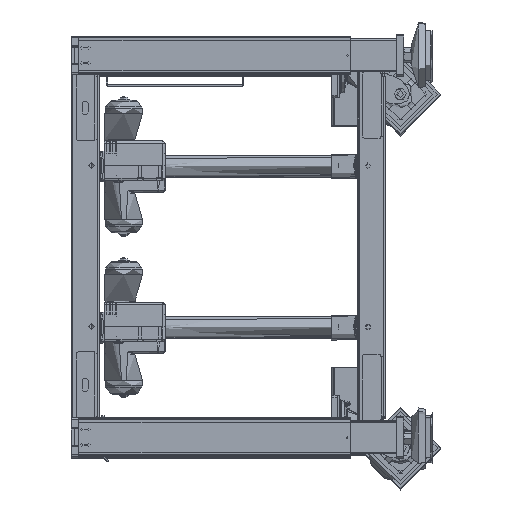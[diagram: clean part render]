
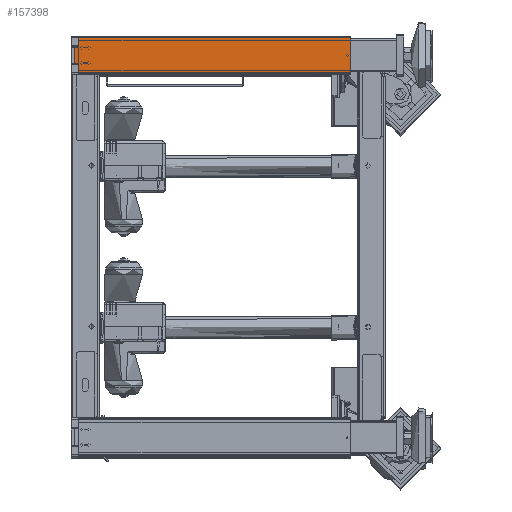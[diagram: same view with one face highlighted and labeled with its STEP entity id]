
A CAD part, top view. The second image highlights one B-rep face of the part: STEP entity #157398.
In plain terms, the highlighted planar face has unit normal (0, 0, 1).
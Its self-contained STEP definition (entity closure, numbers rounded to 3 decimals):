
#8249 = VERTEX_POINT ( 'NONE', #389826 ) ;
#8322 = DIRECTION ( 'NONE',  ( 0., 0., 1. ) ) ;
#15244 = DIRECTION ( 'NONE',  ( -1., 0., 0. ) ) ;
#15919 = CARTESIAN_POINT ( 'NONE',  ( -151.627, 995.2, 2249.714 ) ) ;
#34369 = DIRECTION ( 'NONE',  ( 1., 0., 0. ) ) ;
#42752 = CARTESIAN_POINT ( 'NONE',  ( -157.477, 994.7, 2249.714 ) ) ;
#43710 = VECTOR ( 'NONE', #259796, 1000. ) ;
#45788 = EDGE_CURVE ( 'NONE', #579726, #132322, #171222, .T. ) ;
#46945 = ORIENTED_EDGE ( 'NONE', *, *, #188131, .T. ) ;
#50405 = ORIENTED_EDGE ( 'NONE', *, *, #391263, .T. ) ;
#55754 = FACE_OUTER_BOUND ( 'NONE', #439055, .T. ) ;
#60064 = ORIENTED_EDGE ( 'NONE', *, *, #406946, .F. ) ;
#65102 = CARTESIAN_POINT ( 'NONE',  ( -156.977, 965.7, 2249.714 ) ) ;
#67365 = CARTESIAN_POINT ( 'NONE',  ( 343.173, 1012.025, 2249.714 ) ) ;
#71054 = VECTOR ( 'NONE', #572476, 1000. ) ;
#71801 = EDGE_CURVE ( 'NONE', #89012, #546302, #210308, .T. ) ;
#73012 = CARTESIAN_POINT ( 'NONE',  ( -156.977, 994.7, 2249.714 ) ) ;
#74413 = DIRECTION ( 'NONE',  ( 0., -1., 0. ) ) ;
#77724 = CARTESIAN_POINT ( 'NONE',  ( 334.523, 980.2, 2249.714 ) ) ;
#79567 = VECTOR ( 'NONE', #34369, 1000. ) ;
#79615 = LINE ( 'NONE', #417499, #106950 ) ;
#81365 = LINE ( 'NONE', #422355, #94551 ) ;
#83786 = DIRECTION ( 'NONE',  ( 0., 0., -1. ) ) ;
#87675 = AXIS2_PLACEMENT_3D ( 'NONE', #238871, #522956, #526079 ) ;
#89012 = VERTEX_POINT ( 'NONE', #351347 ) ;
#92160 = LINE ( 'NONE', #234354, #250096 ) ;
#94551 = VECTOR ( 'NONE', #315218, 1000. ) ;
#98711 = ORIENTED_EDGE ( 'NONE', *, *, #388039, .T. ) ;
#106950 = VECTOR ( 'NONE', #467886, 1000. ) ;
#132322 = VERTEX_POINT ( 'NONE', #403805 ) ;
#135060 = EDGE_CURVE ( 'NONE', #362477, #205175, #567242, .T. ) ;
#157398 = ADVANCED_FACE ( 'NONE', ( #245346, #55754 ), #248455, .F. ) ;
#159356 = CIRCLE ( 'NONE', #190159, 0.5 ) ;
#161417 = DIRECTION ( 'NONE',  ( 0., -1., 0. ) ) ;
#162837 = CARTESIAN_POINT ( 'NONE',  ( -157.477, 948.375, 2249.714 ) ) ;
#166730 = CARTESIAN_POINT ( 'NONE',  ( 336.173, 980.2, 2249.714 ) ) ;
#171222 = LINE ( 'NONE', #502875, #43710 ) ;
#175660 = EDGE_CURVE ( 'NONE', #579726, #244503, #422809, .T. ) ;
#184693 = CARTESIAN_POINT ( 'NONE',  ( -151.627, 995.7, 2249.714 ) ) ;
#186777 = EDGE_CURVE ( 'NONE', #362477, #309752, #79615, .T. ) ;
#188131 = EDGE_CURVE ( 'NONE', #309752, #244503, #329685, .T. ) ;
#190159 = AXIS2_PLACEMENT_3D ( 'NONE', #73012, #309964, #161417 ) ;
#193173 = DIRECTION ( 'NONE',  ( -1., 0., 0. ) ) ;
#194144 = CIRCLE ( 'NONE', #355627, 0.5 ) ;
#201037 = DIRECTION ( 'NONE',  ( 0., -1., 0. ) ) ;
#204053 = CARTESIAN_POINT ( 'NONE',  ( -156.977, 965.2, 2249.714 ) ) ;
#205175 = VERTEX_POINT ( 'NONE', #572594 ) ;
#210308 = CIRCLE ( 'NONE', #563131, 0.5 ) ;
#216627 = VECTOR ( 'NONE', #379619, 1000. ) ;
#226161 = ORIENTED_EDGE ( 'NONE', *, *, #71801, .T. ) ;
#234354 = CARTESIAN_POINT ( 'NONE',  ( -151.127, 995.2, 2249.714 ) ) ;
#238871 = CARTESIAN_POINT ( 'NONE',  ( -151.627, 964.7, 2249.714 ) ) ;
#244503 = VERTEX_POINT ( 'NONE', #67365 ) ;
#245346 = FACE_BOUND ( 'NONE', #267672, .T. ) ;
#248455 = PLANE ( 'NONE',  #355905 ) ;
#250096 = VECTOR ( 'NONE', #193173, 1000. ) ;
#259796 = DIRECTION ( 'NONE',  ( 0., -1., 0. ) ) ;
#267238 = ORIENTED_EDGE ( 'NONE', *, *, #186777, .T. ) ;
#267672 = EDGE_LOOP ( 'NONE', ( #98711 ) ) ;
#299491 = ORIENTED_EDGE ( 'NONE', *, *, #577878, .T. ) ;
#309752 = VERTEX_POINT ( 'NONE', #592018 ) ;
#309964 = DIRECTION ( 'NONE',  ( 0., 0., 1. ) ) ;
#315218 = DIRECTION ( 'NONE',  ( -1., 0., 0. ) ) ;
#329685 = LINE ( 'NONE', #522066, #71054 ) ;
#351347 = CARTESIAN_POINT ( 'NONE',  ( -157.477, 965.7, 2249.714 ) ) ;
#355627 = AXIS2_PLACEMENT_3D ( 'NONE', #184693, #83786, #462721 ) ;
#355905 = AXIS2_PLACEMENT_3D ( 'NONE', #162837, #506944, #74413 ) ;
#360096 = CIRCLE ( 'NONE', #87675, 0.5 ) ;
#362477 = VERTEX_POINT ( 'NONE', #562883 ) ;
#379619 = DIRECTION ( 'NONE',  ( 0., 1., 0. ) ) ;
#388039 = EDGE_CURVE ( 'NONE', #595498, #595498, #550153, .T. ) ;
#389826 = CARTESIAN_POINT ( 'NONE',  ( -151.627, 965.2, 2249.714 ) ) ;
#391263 = EDGE_CURVE ( 'NONE', #531707, #604580, #159356, .T. ) ;
#403805 = CARTESIAN_POINT ( 'NONE',  ( -151.127, 995.7, 2249.714 ) ) ;
#406946 = EDGE_CURVE ( 'NONE', #89012, #604580, #527672, .T. ) ;
#409569 = CARTESIAN_POINT ( 'NONE',  ( -156.977, 995.2, 2249.714 ) ) ;
#409993 = EDGE_CURVE ( 'NONE', #8249, #205175, #360096, .T. ) ;
#415224 = VERTEX_POINT ( 'NONE', #15919 ) ;
#417499 = CARTESIAN_POINT ( 'NONE',  ( -157.477, 948.375, 2249.714 ) ) ;
#419282 = AXIS2_PLACEMENT_3D ( 'NONE', #166730, #610845, #15244 ) ;
#422355 = CARTESIAN_POINT ( 'NONE',  ( -151.127, 965.2, 2249.714 ) ) ;
#422809 = LINE ( 'NONE', #505011, #79567 ) ;
#431497 = CARTESIAN_POINT ( 'NONE',  ( -151.127, 965.2, 2249.714 ) ) ;
#439055 = EDGE_LOOP ( 'NONE', ( #527732, #50405, #60064, #226161, #604718, #486391, #559809, #267238, #46945, #487918, #619927, #299491 ) ) ;
#462721 = DIRECTION ( 'NONE',  ( 0., -1., 0. ) ) ;
#467886 = DIRECTION ( 'NONE',  ( 1., 0., 0. ) ) ;
#475737 = DIRECTION ( 'NONE',  ( 0., 1., 0. ) ) ;
#486391 = ORIENTED_EDGE ( 'NONE', *, *, #409993, .T. ) ;
#487918 = ORIENTED_EDGE ( 'NONE', *, *, #175660, .F. ) ;
#489728 = VECTOR ( 'NONE', #475737, 1000. ) ;
#502875 = CARTESIAN_POINT ( 'NONE',  ( -151.127, 995.2, 2249.714 ) ) ;
#505011 = CARTESIAN_POINT ( 'NONE',  ( -157.477, 1012.025, 2249.714 ) ) ;
#506944 = DIRECTION ( 'NONE',  ( 0., 0., -1. ) ) ;
#522066 = CARTESIAN_POINT ( 'NONE',  ( 343.173, 948.375, 2249.714 ) ) ;
#522956 = DIRECTION ( 'NONE',  ( 0., 0., -1. ) ) ;
#526079 = DIRECTION ( 'NONE',  ( 0., -1., 0. ) ) ;
#527672 = LINE ( 'NONE', #530824, #216627 ) ;
#527732 = ORIENTED_EDGE ( 'NONE', *, *, #572630, .T. ) ;
#530824 = CARTESIAN_POINT ( 'NONE',  ( -157.477, 948.375, 2249.714 ) ) ;
#531707 = VERTEX_POINT ( 'NONE', #409569 ) ;
#546302 = VERTEX_POINT ( 'NONE', #204053 ) ;
#550153 = CIRCLE ( 'NONE', #419282, 1.65 ) ;
#552797 = EDGE_CURVE ( 'NONE', #8249, #546302, #81365, .T. ) ;
#559809 = ORIENTED_EDGE ( 'NONE', *, *, #135060, .F. ) ;
#562883 = CARTESIAN_POINT ( 'NONE',  ( -151.127, 948.375, 2249.714 ) ) ;
#563131 = AXIS2_PLACEMENT_3D ( 'NONE', #65102, #8322, #201037 ) ;
#567242 = LINE ( 'NONE', #431497, #489728 ) ;
#572476 = DIRECTION ( 'NONE',  ( 0., 1., 0. ) ) ;
#572594 = CARTESIAN_POINT ( 'NONE',  ( -151.127, 964.7, 2249.714 ) ) ;
#572630 = EDGE_CURVE ( 'NONE', #415224, #531707, #92160, .T. ) ;
#573994 = CARTESIAN_POINT ( 'NONE',  ( -151.127, 1012.025, 2249.714 ) ) ;
#577878 = EDGE_CURVE ( 'NONE', #132322, #415224, #194144, .T. ) ;
#579726 = VERTEX_POINT ( 'NONE', #573994 ) ;
#592018 = CARTESIAN_POINT ( 'NONE',  ( 343.173, 948.375, 2249.714 ) ) ;
#595498 = VERTEX_POINT ( 'NONE', #77724 ) ;
#604580 = VERTEX_POINT ( 'NONE', #42752 ) ;
#604718 = ORIENTED_EDGE ( 'NONE', *, *, #552797, .F. ) ;
#610845 = DIRECTION ( 'NONE',  ( 0., 0., -1. ) ) ;
#619927 = ORIENTED_EDGE ( 'NONE', *, *, #45788, .T. ) ;
